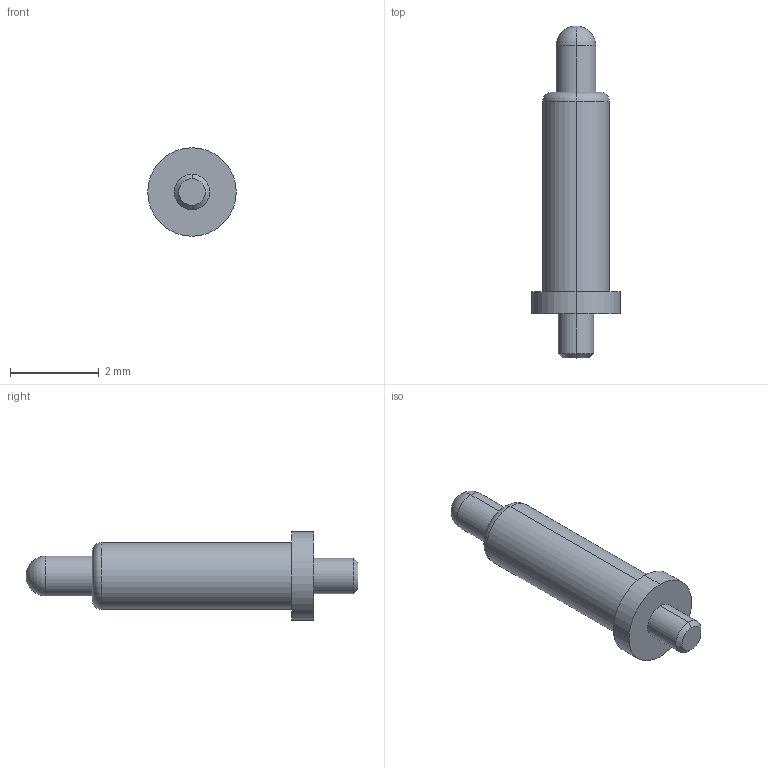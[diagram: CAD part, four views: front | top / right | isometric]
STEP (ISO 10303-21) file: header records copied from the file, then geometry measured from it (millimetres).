
FILE_DESCRIPTION((''),'2;1');
FILE_NAME('PRT0014','2023-05-26T11:06:39',('USER'),(''),'CREO PARAMETRIC BY PTC INC, 2020154','CREO PARAMETRIC BY PTC INC, 2020154','');
FILE_SCHEMA(('CONFIG_CONTROL_DESIGN'));
Length unit declared in the file: millimetre
Products named in the file (1): PRT0014
Bounding box: 2 x 7.5 x 2 mm (x, y, z)
Volume: 10.8 mm3; surface area: 36.2 mm2
Topology: 1 solids, 1 shells, 18 faces, 36 edges, 21 vertices
Faces by surface type: cylinder 8, plane 4, torus 2, sphere 2, cone 2
Entity records: 500 total; most frequent: DIRECTION 94, CARTESIAN_POINT 73, ORIENTED_EDGE 68, AXIS2_PLACEMENT_3D 42, EDGE_CURVE 34, CIRCLE 24, VERTEX_POINT 21, EDGE_LOOP 21
